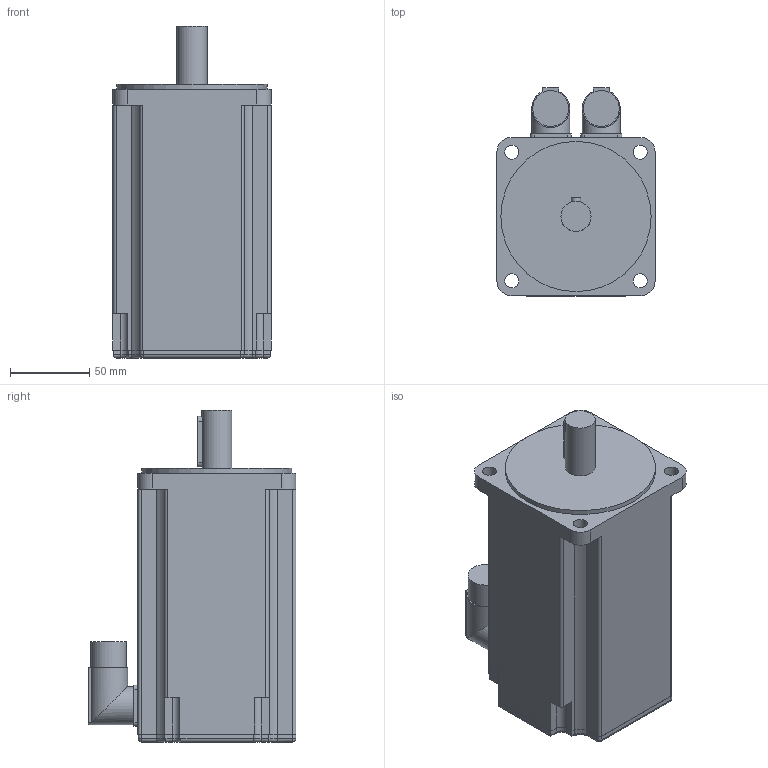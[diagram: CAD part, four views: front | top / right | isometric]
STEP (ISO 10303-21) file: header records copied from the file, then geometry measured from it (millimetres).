
FILE_DESCRIPTION(/* description */ (''),/* implementation_level */ '2;1');
FILE_NAME(/* name */ '\\Lafnas01\disegni\Archivi Lafert\3D\CAD 3D\MODELLI\Assiemi clienti\Serad\Modelli 3D Serad\B63Q\Resolver\Res Without Brake\B6306Qxx6A052033.ipt.stp',/* time_stamp */ '2015-09-07T10:51:22+02:00',/* author */ ('Pastrello Ylenia'),/* organization */ (''),/* preprocessor_version */ 'ST-DEVELOPER v15.6',/* originating_system */ 'Autodesk Inventor 2015',/* authorisation */ '');
FILE_SCHEMA (('AUTOMOTIVE_DESIGN { 1 0 10303 214 3 1 1 }'));
Length unit declared in the file: millimetre
Products named in the file (1): B6306Qxx6A052033
Bounding box: 100 x 131.5 x 210 mm (x, y, z)
Volume: 1594333.9 mm3; surface area: 97375.9 mm2
Topology: 1 solids, 1 shells, 162 faces, 420 edges, 270 vertices
Faces by surface type: plane 76, cylinder 74, torus 8, sphere 4
Full cylindrical faces by diameter (mm): 9 x4, 19 x1, 22.7 x2, 24 x2, 95 x1
Entity records: 5018 total; most frequent: CARTESIAN_POINT 973, DIRECTION 864, ORIENTED_EDGE 812, EDGE_CURVE 406, AXIS2_PLACEMENT_3D 305, VERTEX_POINT 266, LINE 254, VECTOR 254
